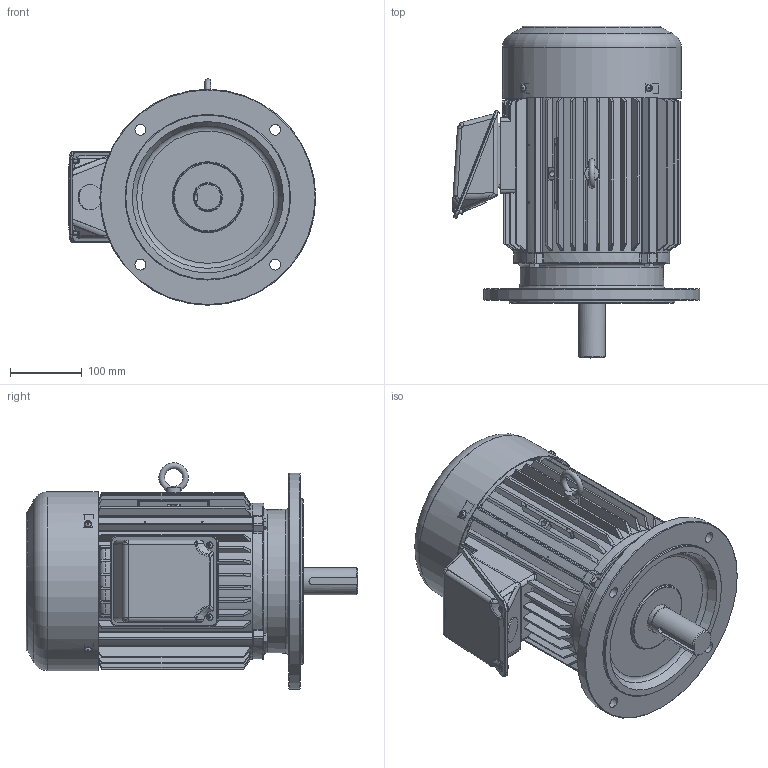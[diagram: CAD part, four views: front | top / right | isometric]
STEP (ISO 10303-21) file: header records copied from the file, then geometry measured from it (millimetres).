
FILE_DESCRIPTION(/* description */ ('Unknown'),/* implementation_level */ '2;1');
FILE_NAME(/* name */ '1-SMA-33833_외형도(205DIA)',/* time_stamp */ '2026-07-24T08:53:03+09:00',/* author */ ('Unknown'),/* organization */ ('Unknown'),/* preprocessor_version */ 'ST-DEVELOPER v16',/* originating_system */ 'DEX',/* authorisation */ $);
FILE_SCHEMA (('AUTOMOTIVE_DESIGN {1 0 10303 214 3 1 1}'));
Products named in the file (19): 1-SMA-33833_¿ÜÇüµµ(205DIxÆÖÄ³(; 2-SMA-30809_FRAME(205DIA); 3-SMA-30805_擅粽塭鰍(205D; 4-SMA-30800_µÚºê¶óÄÏ(205D´¾|·Ï(; 5-SMA-30810_SHAFT(205DIA); 6-SMA-31244_FAN(205DIA); 7-SMA-30803_FAN COVER(205DIA); I獐お M10x1.5x18; 幫陝獐お M8x1.25x; 菅斬 褊濠 M6x1x; 6308ZZ; 6306ZZ; 蹴辨 S2; 5.5~15kW(7.5~20HP)_攪嘐割 夢蝶(205~260e; 8-SMA-33050_T-BOX(鼻)(205~260DIA); 9-SMA-33051_T-BOX(ж)(205~260DIA); 褊濠 菅斬 該葬 獐お M5x; T-BOX 歜衛 馨檜綰斜楠萄(205~; T-BOX 憶っ(205~260DIA) V~
Assembly tree (29 placements, depth 3):
  1-SMA-33833_¿ÜÇüµµ(205DIxÆÖÄ³(
    2-SMA-30809_FRAME(205DIA)
    3-SMA-30805_擅粽塭鰍(205D
    4-SMA-30800_µÚºê¶óÄÏ(205D´¾|·Ï(
    5-SMA-30810_SHAFT(205DIA)
    6-SMA-31244_FAN(205DIA)
    7-SMA-30803_FAN COVER(205DIA)
    I獐お M10x1.5x18
    幫陝獐お M8x1.25x  x8
    菅斬 褊濠 M6x1x  x4
    6308ZZ
    6306ZZ
    蹴辨 S2
    5.5~15kW(7.5~20HP)_攪嘐割 夢蝶(205~260e
      8-SMA-33050_T-BOX(鼻)(205~260DIA)
      9-SMA-33051_T-BOX(ж)(205~260DIA)
      褊濠 菅斬 該葬 獐お M5x  x2
      T-BOX 歜衛 馨檜綰斜楠萄(205~
      T-BOX 憶っ(205~260DIA) V~
Bounding box: 343.99 x 461 x 314.5 mm (x, y, z)
Volume: 4095790.4 mm3; surface area: 1469001.1 mm2
Topology: 50 solids, 50 shells, 2029 faces, 5081 edges, 3192 vertices
Faces by surface type: plane 683, cylinder 609, cone 343, torus 210, bspline 136, sphere 48
Full cylindrical faces by diameter (mm): 2 x2, 2.2 x4, 4.134 x2, 4.917 x10, 5 x2, 6 x6, 6.6 x4, 6.647 x16, 7 x2, 8 x17, 8.376 x2, 9 x2, 10 x10, 15 x4, 20 x1, 25 x1, 25.3 x1, 29.8 x1, 30 x2, 30.6 x1, 35 x2, 38 x1, 39.8 x1, 40 x4, 40.1 x1, 40.6 x1, 42 x2, 42.4 x2, 44 x3, 54.286 x2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
Entity records: 76505 total; most frequent: CARTESIAN_POINT 29486, DIRECTION 8536, ORIENTED_EDGE 8504, EDGE_CURVE 4252, AXIS2_PLACEMENT_3D 3548, VERTEX_POINT 2817, FACE_BOUND 2257, EDGE_LOOP 2228
